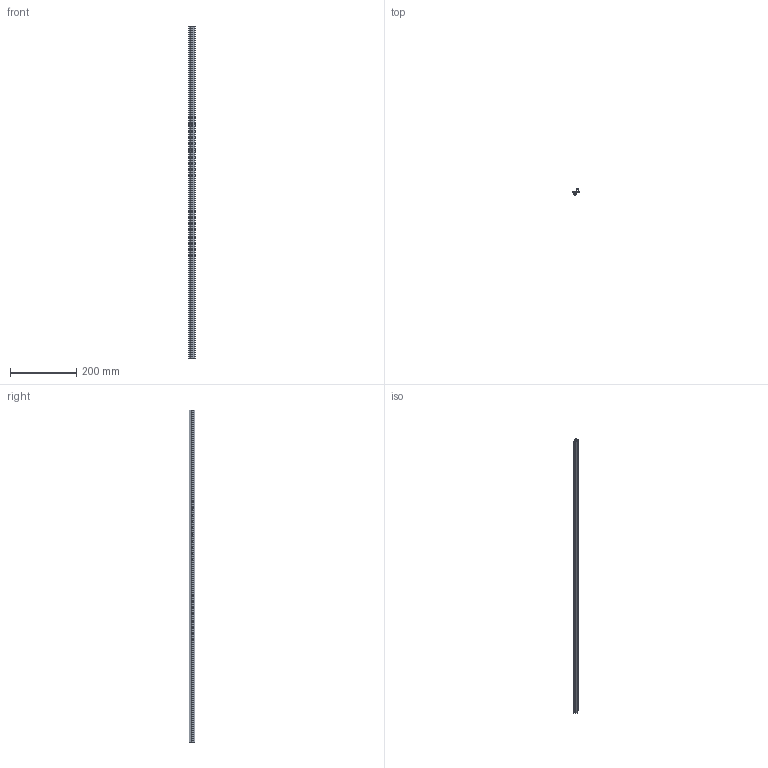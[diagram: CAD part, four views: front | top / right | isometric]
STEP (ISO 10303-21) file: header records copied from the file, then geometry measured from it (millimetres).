
FILE_DESCRIPTION (( 'STEP AP214' ), '1' );
FILE_NAME ('J3PCN.step', '2017-05-24T07:46:08', ( 'admin' ), ( '' ), 'SwSTEP 2.0', 'SolidWorks 2014', '' );
FILE_SCHEMA (( 'AUTOMOTIVE_DESIGN' ));
Length unit declared in the file: millimetre
Products named in the file (3): J3PCN-2; J3PCN-1; J3PCN
Assembly tree (2 placements, depth 2):
  J3PCN
    J3PCN-1
    J3PCN-2
Bounding box: 18.85 x 18.05 x 1000 mm (x, y, z)
Volume: 65918.7 mm3; surface area: 126910.8 mm2
Topology: 2 solids, 2 shells, 88 faces, 252 edges, 168 vertices
Faces by surface type: plane 57, cylinder 31
Entity records: 2988 total; most frequent: CARTESIAN_POINT 513, ORIENTED_EDGE 504, DIRECTION 500, EDGE_CURVE 252, LINE 190, VECTOR 190, VERTEX_POINT 168, AXIS2_PLACEMENT_3D 155
